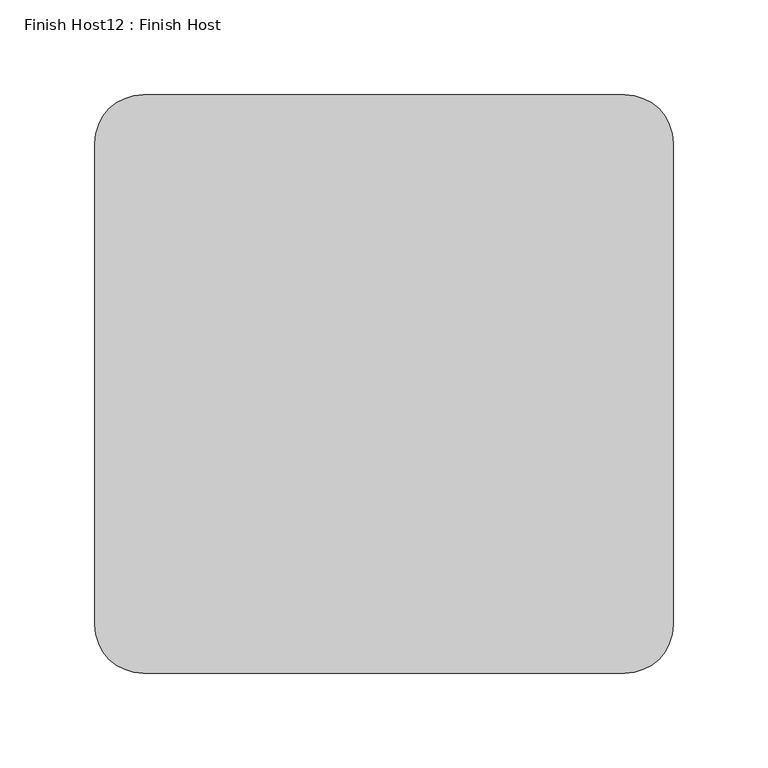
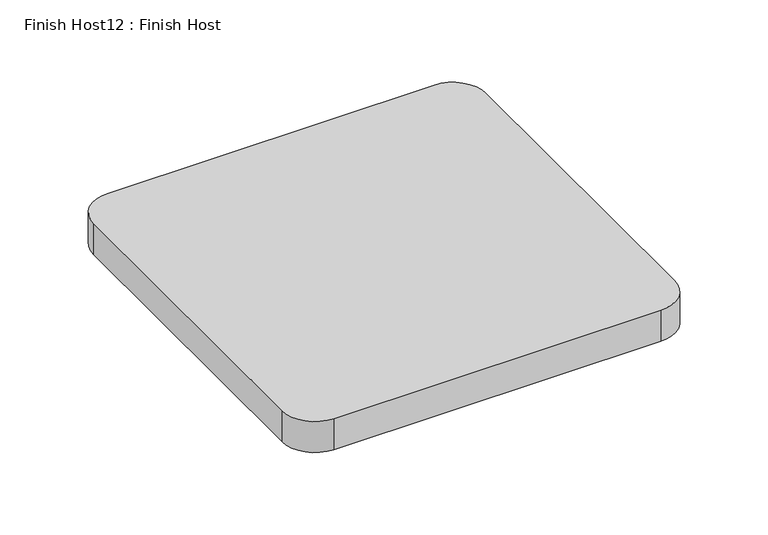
"""IFC4 building model written with IfcOpenShell, lengths in millimetres: proxy geometry, Finish Host12 : Finish Host."""

from ifc_helpers import new_model, si_unit, point, frame_2d, origin, origin_with_axes, place, context, project, spatial, polyline, circle_curve, trimmed, segment, composite_curve, outline, extrude, source, transform, mapped, element, save


def finish_host12_finish_host_35fb9fcd(model_context):
    return source(origin(), model_context, "Body", "SweptSolid", [
        extrude(outline(composite_curve([segment(polyline([(1799.7649374, 2023.3667263), (1799.7649374, 2277.3667263)]), True, "CONTINUOUS"), segment(trimmed(circle_curve(frame_2d((1825.1649374, 2277.3667263)), 25.4), [point((1799.7649374, 2277.3667263))], [point((1825.1649374, 2302.7667263))], False, "CARTESIAN"), True, "CONTINUOUS"), segment(polyline([(1825.1649374, 2302.7667263), (2079.1649374, 2302.7667263)]), True, "CONTINUOUS"), segment(trimmed(circle_curve(frame_2d((2079.1649374, 2277.3667263)), 25.4), [point((2079.1649374, 2302.7667263))], [point((2104.5649374, 2277.3667263))], False, "CARTESIAN"), True, "CONTINUOUS"), segment(polyline([(2104.5649374, 2277.3667263), (2104.5649374, 2023.3667263)]), True, "CONTINUOUS"), segment(trimmed(circle_curve(frame_2d((2079.1649374, 2023.3667263)), 25.4), [point((2104.5649374, 2023.3667263))], [point((2079.1649374, 1997.9667263))], False, "CARTESIAN"), True, "CONTINUOUS"), segment(polyline([(2079.1649374, 1997.9667263), (1825.1649374, 1997.9667263)]), True, "CONTINUOUS"), segment(trimmed(circle_curve(frame_2d((1825.1649374, 2023.3667263)), 25.4), [point((1825.1649374, 1997.9667263))], [point((1799.7649374, 2023.3667263))], False, "CARTESIAN"), True, "CONTINUOUS")], self_intersect=False)), origin_with_axes(), (0.0, 0.0, 1.0), 25.4),
    ])


if __name__ == "__main__":
    model = new_model("IFC4")
    model_context = context("Model", 3, world=origin())
    ifc_project = project(units=[si_unit("LENGTHUNIT", "METRE", prefix="MILLI")], contexts=[model_context])
    site = spatial("IfcSite", under=ifc_project)
    building = spatial("IfcBuilding", under=site)
    placement = place(None, origin())
    finish_host12_finish_host_shape = finish_host12_finish_host_35fb9fcd(model_context)
    element("IfcBuildingElementProxy", 1, Name="Finish Host12 : Finish Host", ObjectType="Finish Host12 : Finish Host", at=placement, inside=building, context=model_context, shape_type="MappedRepresentation", body=[
        mapped(finish_host12_finish_host_shape, transform((0.0, 0.0, 0.0), x_axis=(1.0, 0.0, 0.0), y_axis=(0.0, 1.0, 0.0), z_axis=(0.0, 0.0, 1.0))),
    ])
    save(model, "model.ifc")
